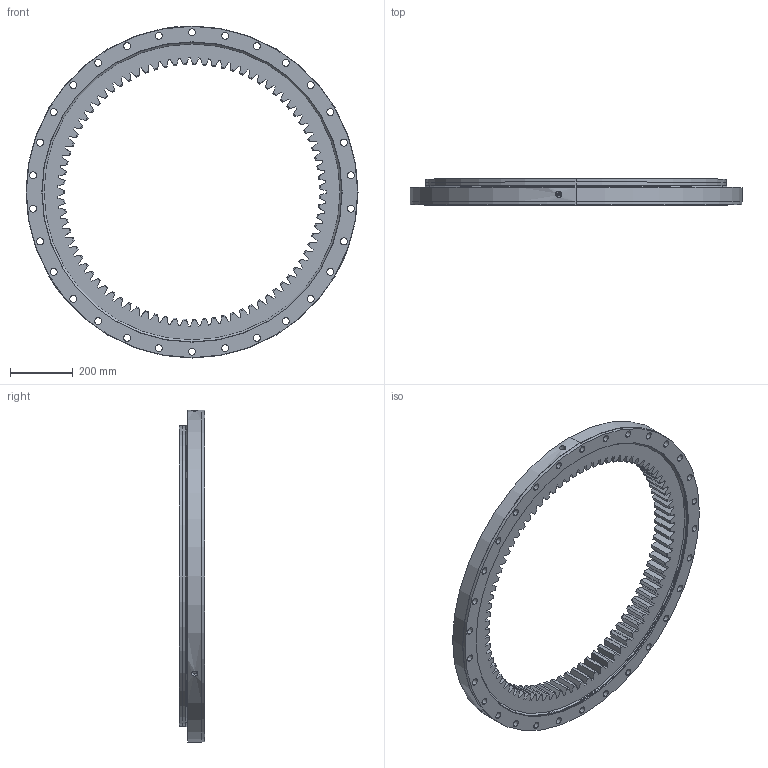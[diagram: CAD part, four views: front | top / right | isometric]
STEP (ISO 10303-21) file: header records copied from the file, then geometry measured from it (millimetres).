
FILE_DESCRIPTION (( 'STEP AP214' ), '1' );
FILE_NAME ('B2125-1-1055AC.STEP', '2022-11-24T06:52:02', ( '' ), ( '' ), 'SwSTEP 2.0', 'SolidWorks 2020', '' );
FILE_SCHEMA (( 'AUTOMOTIVE_DESIGN' ));
Length unit declared in the file: millimetre
Products named in the file (1): B2125-1-1055AC
Bounding box: 1055 x 82 x 1055 mm (x, y, z)
Volume: 20164162.3 mm3; surface area: 2053642.5 mm2
Topology: 4 solids, 4 shells, 811 faces, 2256 edges, 1434 vertices
Faces by surface type: cone 290, plane 274, cylinder 247
Entity records: 26444 total; most frequent: CARTESIAN_POINT 5801, ORIENTED_EDGE 4392, DIRECTION 4207, EDGE_CURVE 2196, AXIS2_PLACEMENT_3D 1540, VERTEX_POINT 1434, LINE 1127, VECTOR 1127
